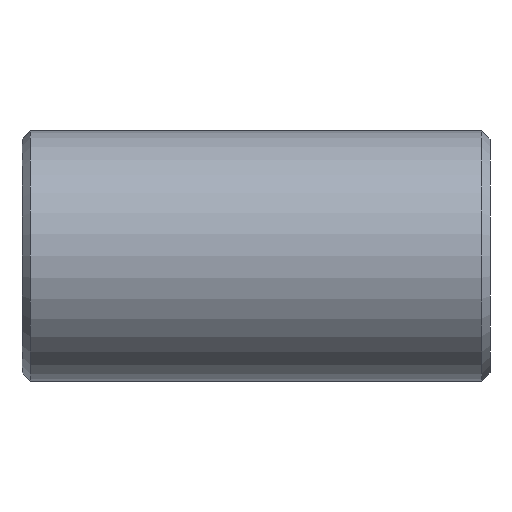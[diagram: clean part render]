
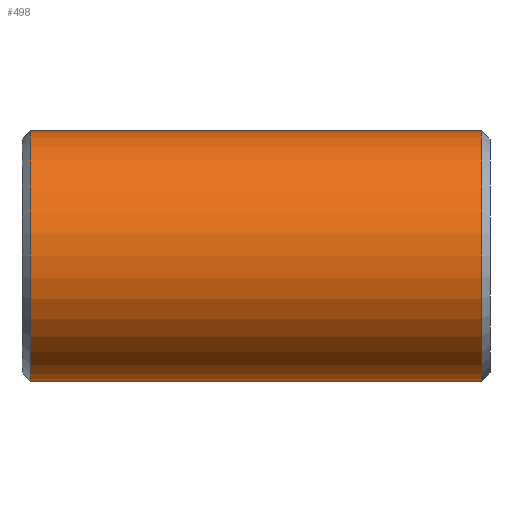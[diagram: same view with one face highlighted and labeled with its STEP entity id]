
A CAD part, left-side view. The second image highlights one B-rep face of the part: STEP entity #498.
In plain terms, the highlighted cylindrical face has radius 7.5 mm (diameter 15 mm), a partial arc.
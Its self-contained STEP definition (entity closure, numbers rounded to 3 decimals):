
#4 = LINE ( 'NONE', #971, #899 ) ;
#12 = ORIENTED_EDGE ( 'NONE', *, *, #484, .T. ) ;
#14 = AXIS2_PLACEMENT_3D ( 'NONE', #344, #1284, #766 ) ;
#72 = EDGE_CURVE ( 'NONE', #802, #1365, #517, .T. ) ;
#116 = DIRECTION ( 'NONE',  ( 0., 1., 0. ) ) ;
#143 = EDGE_CURVE ( 'NONE', #606, #1009, #1283, .T. ) ;
#162 = EDGE_LOOP ( 'NONE', ( #878, #795, #12, #915 ) ) ;
#222 = CARTESIAN_POINT ( 'NONE',  ( 0., 1., 7.5 ) ) ;
#253 = DIRECTION ( 'NONE',  ( 0., -1., 0. ) ) ;
#279 = LINE ( 'NONE', #1193, #356 ) ;
#292 = AXIS2_PLACEMENT_3D ( 'NONE', #989, #669, #872 ) ;
#344 = CARTESIAN_POINT ( 'NONE',  ( 0., 65.513, 0. ) ) ;
#356 = VECTOR ( 'NONE', #1300, 1000. ) ;
#484 = EDGE_CURVE ( 'NONE', #1365, #606, #4, .T. ) ;
#498 = ADVANCED_FACE ( 'NONE', ( #821 ), #541, .T. ) ;
#517 = CIRCLE ( 'NONE', #292, 7.5 ) ;
#541 = CYLINDRICAL_SURFACE ( 'NONE', #14, 7.5 ) ;
#579 = CARTESIAN_POINT ( 'NONE',  ( 0., 1., 0. ) ) ;
#606 = VERTEX_POINT ( 'NONE', #222 ) ;
#669 = DIRECTION ( 'NONE',  ( 0., 1., 0. ) ) ;
#677 = CARTESIAN_POINT ( 'NONE',  ( 0., -26., -7.5 ) ) ;
#766 = DIRECTION ( 'NONE',  ( 0., 0., 1. ) ) ;
#795 = ORIENTED_EDGE ( 'NONE', *, *, #72, .T. ) ;
#802 = VERTEX_POINT ( 'NONE', #677 ) ;
#811 = CARTESIAN_POINT ( 'NONE',  ( 0., 1., -7.5 ) ) ;
#821 = FACE_OUTER_BOUND ( 'NONE', #162, .T. ) ;
#872 = DIRECTION ( 'NONE',  ( 0., 0., -1. ) ) ;
#878 = ORIENTED_EDGE ( 'NONE', *, *, #916, .F. ) ;
#899 = VECTOR ( 'NONE', #116, 1000. ) ;
#904 = CARTESIAN_POINT ( 'NONE',  ( 0., -26., 7.5 ) ) ;
#915 = ORIENTED_EDGE ( 'NONE', *, *, #143, .T. ) ;
#916 = EDGE_CURVE ( 'NONE', #802, #1009, #279, .T. ) ;
#971 = CARTESIAN_POINT ( 'NONE',  ( 0., 65.513, 7.5 ) ) ;
#989 = CARTESIAN_POINT ( 'NONE',  ( 0., -26., 0. ) ) ;
#1009 = VERTEX_POINT ( 'NONE', #811 ) ;
#1193 = CARTESIAN_POINT ( 'NONE',  ( 0., 65.513, -7.5 ) ) ;
#1271 = AXIS2_PLACEMENT_3D ( 'NONE', #579, #253, #1304 ) ;
#1283 = CIRCLE ( 'NONE', #1271, 7.5 ) ;
#1284 = DIRECTION ( 'NONE',  ( 0., 1., 0. ) ) ;
#1300 = DIRECTION ( 'NONE',  ( 0., 1., 0. ) ) ;
#1304 = DIRECTION ( 'NONE',  ( 0., 0., 1. ) ) ;
#1365 = VERTEX_POINT ( 'NONE', #904 ) ;
